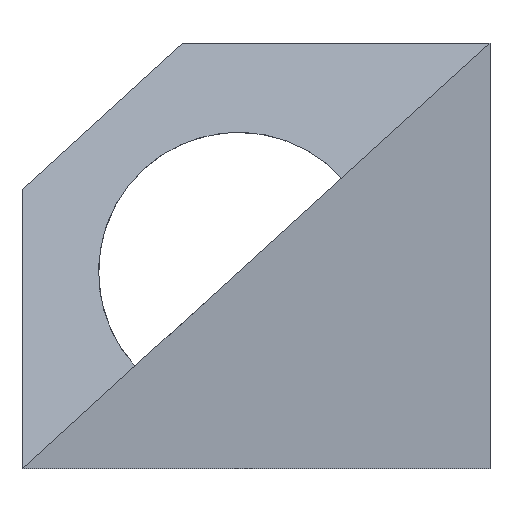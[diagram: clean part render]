
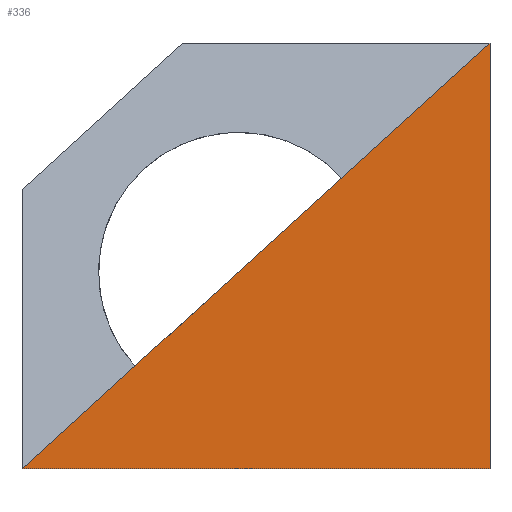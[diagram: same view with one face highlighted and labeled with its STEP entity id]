
A CAD part, front view. The second image highlights one B-rep face of the part: STEP entity #336.
In plain terms, the highlighted planar face has unit normal (0, -1, 0).
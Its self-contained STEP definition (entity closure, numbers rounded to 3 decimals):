
#22=FACE_OUTER_BOUND('',#40,.T.);
#40=EDGE_LOOP('',(#245,#246,#247,#248,#249));
#64=LINE('',#495,#109);
#69=LINE('',#507,#114);
#70=LINE('',#510,#115);
#71=LINE('',#511,#116);
#72=LINE('',#512,#117);
#109=VECTOR('',#403,10.);
#114=VECTOR('',#414,10.);
#115=VECTOR('',#417,10.);
#116=VECTOR('',#418,10.);
#117=VECTOR('',#419,10.);
#150=VERTEX_POINT('',#485);
#153=VERTEX_POINT('',#493);
#154=VERTEX_POINT('',#497);
#157=VERTEX_POINT('',#505);
#158=VERTEX_POINT('',#509);
#184=EDGE_CURVE('',#150,#153,#64,.T.);
#190=EDGE_CURVE('',#154,#157,#69,.T.);
#191=EDGE_CURVE('',#157,#158,#70,.T.);
#192=EDGE_CURVE('',#158,#150,#71,.T.);
#193=EDGE_CURVE('',#154,#153,#72,.T.);
#245=ORIENTED_EDGE('',*,*,#190,.T.);
#246=ORIENTED_EDGE('',*,*,#191,.T.);
#247=ORIENTED_EDGE('',*,*,#192,.T.);
#248=ORIENTED_EDGE('',*,*,#184,.T.);
#249=ORIENTED_EDGE('',*,*,#193,.F.);
#318=PLANE('',#370);
#336=ADVANCED_FACE('',(#22),#318,.F.);
#370=AXIS2_PLACEMENT_3D('',#508,#415,#416);
#403=DIRECTION('',(-0.74,0.,-0.673));
#414=DIRECTION('',(-0.74,0.,-0.673));
#415=DIRECTION('center_axis',(0.,1.,0.));
#416=DIRECTION('ref_axis',(1.,0.,0.));
#417=DIRECTION('',(1.,0.,0.));
#418=DIRECTION('',(0.,0.,1.));
#419=DIRECTION('',(0.74,0.,0.673));
#485=CARTESIAN_POINT('',(77.,0.,70.));
#493=CARTESIAN_POINT('',(52.608,0.,47.825));
#495=CARTESIAN_POINT('',(45.554,0.,41.413));
#497=CARTESIAN_POINT('',(18.57,0.,16.882));
#505=CARTESIAN_POINT('',(0.,0.,0.));
#507=CARTESIAN_POINT('',(19.25,0.,17.5));
#508=CARTESIAN_POINT('Origin',(38.5,0.,35.));
#509=CARTESIAN_POINT('',(77.,0.,0.));
#510=CARTESIAN_POINT('',(0.,0.,0.));
#511=CARTESIAN_POINT('',(77.,0.,0.));
#512=CARTESIAN_POINT('',(0.,0.,0.));
